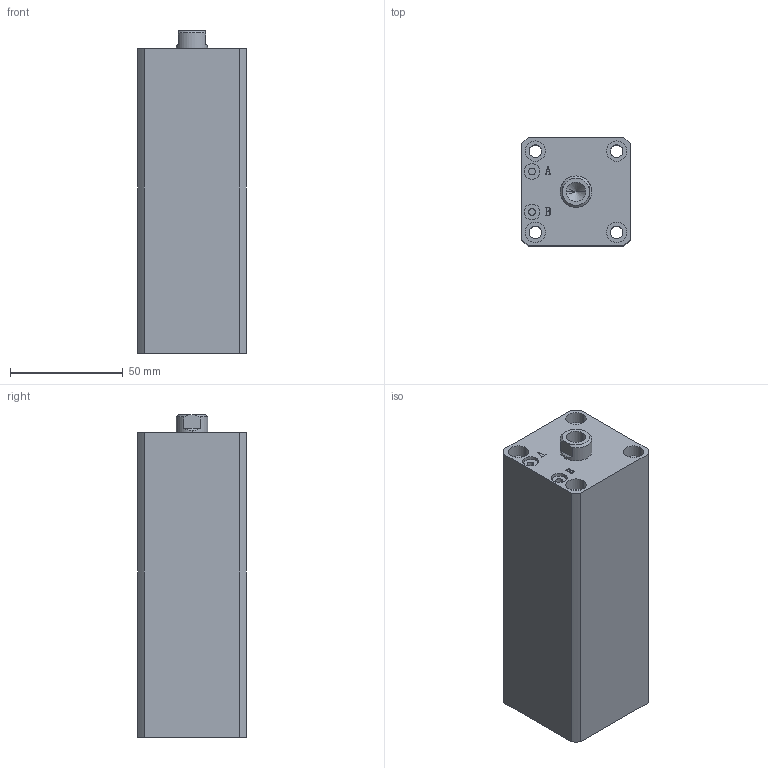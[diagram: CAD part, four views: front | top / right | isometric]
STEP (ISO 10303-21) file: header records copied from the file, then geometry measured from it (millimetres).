
FILE_DESCRIPTION (( 'STEP AP203' ), '1' );
FILE_NAME ('HTB-SDMA25-90N.STEP', '2019-10-07T11:15:41', ( '微软用户' ), ( '微软中国' ), 'SwSTEP 2.0', 'SolidWorks 2012', '' );
FILE_SCHEMA (( 'CONFIG_CONTROL_DESIGN' ));
Length unit declared in the file: millimetre
Products named in the file (3): HTB-SDMA25-90N; HTB-SDMA25-90N活塞杆; HTB-SDMA25-90掛极
Assembly tree (2 placements, depth 2):
  HTB-SDMA25-90N
    HTB-SDMA25-90掛极
    HTB-SDMA25-90N活塞杆
Bounding box: 48 x 48 x 143 mm (x, y, z)
Volume: 263441.9 mm3; surface area: 57438.4 mm2
Topology: 2 solids, 2 shells, 137 faces, 329 edges, 215 vertices
Faces by surface type: plane 65, cylinder 46, bspline 16, torus 6, cone 4
Entity records: 5072 total; most frequent: CARTESIAN_POINT 1592, ORIENTED_EDGE 654, DIRECTION 645, EDGE_CURVE 327, AXIS2_PLACEMENT_3D 232, VERTEX_POINT 215, LINE 181, VECTOR 181
